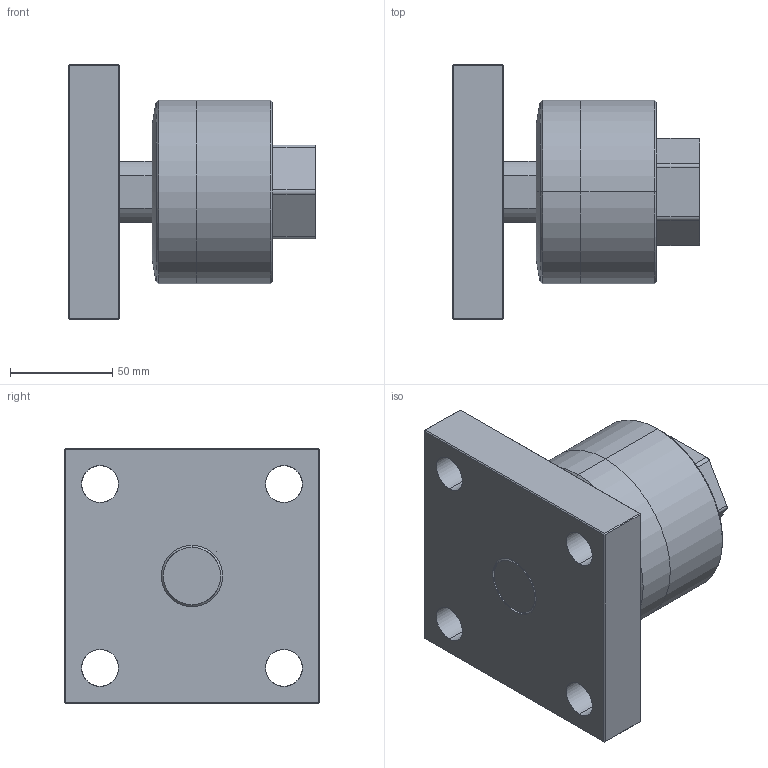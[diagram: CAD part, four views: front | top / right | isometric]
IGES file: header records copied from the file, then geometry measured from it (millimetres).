
Start section: SolidWorks IGES file using analytic representation for surfaces
Global section: file name: C:\Users\Toshiba\Desktop\FCM30-1.5-F.IGS; native system: SolidWorks 2014; preprocessor: SolidWorks 2014; author: Toshiba; date: 160414.100045; units: millimetre
Bounding box: 121 x 125 x 125 mm (x, y, z)
Surface area: 86074.1 mm2 (no closed solid volume)
Topology: 0 solids, 0 shells, 81 faces, 1094 edges, 1094 vertices
Faces by surface type: bspline 45, revolution 36
